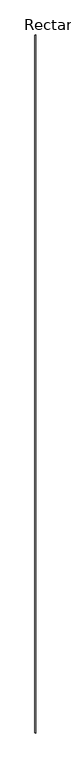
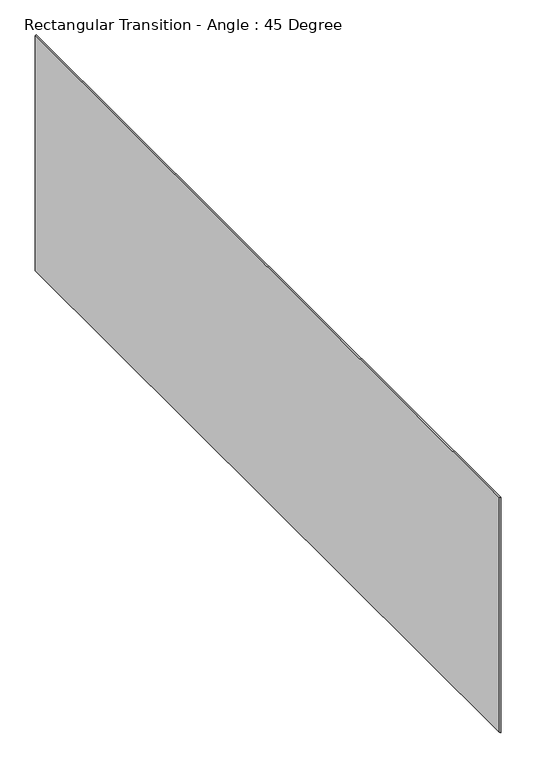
"""IFC4 building model written with IfcOpenShell, lengths in millimetres: duct fitting geometry, Rectangular Transition - Angle : 45 Degree."""

from ifc_helpers import new_model, si_unit, origin, place, context, project, spatial, faceted_brep, source, transform, mapped, element, save


def rectangular_transition_angle_45_degree_585fbb9b(model_context):
    return source(origin(), model_context, "Body", "Brep", [
        faceted_brep([(1.916282, -698.5, 215.9), (1.916282, -698.5, -215.9), (1.916282, 698.5, -215.9), (1.916282, 698.5, 215.9), (0.0, -697.70625, 215.10625), (0.0, 697.70625, 215.10625), (0.0, 697.70625, -215.10625), (0.0, -697.70625, -215.10625)], [[[0, 1, 2, 3]], [[4, 5, 6, 7]], [[4, 7, 1, 0]], [[7, 6, 2, 1]], [[6, 5, 3, 2]], [[5, 4, 0, 3]]]),
    ])


if __name__ == "__main__":
    model = new_model("IFC4")
    model_context = context("Model", 3, world=origin())
    ifc_project = project(units=[si_unit("LENGTHUNIT", "METRE", prefix="MILLI")], contexts=[model_context])
    site = spatial("IfcSite", under=ifc_project)
    building = spatial("IfcBuilding", under=site)
    placement = place(None, origin())
    rectangular_transition_angle_45_degree_shape = rectangular_transition_angle_45_degree_585fbb9b(model_context)
    element("IfcDuctFitting", 1, ObjectType="Rectangular Transition - Angle : 45 Degree", at=placement, inside=building, context=model_context, shape_type="MappedRepresentation", body=[
        mapped(rectangular_transition_angle_45_degree_shape, transform((0.0, 0.0, 0.0), x_axis=(1.0, 0.0, 0.0), y_axis=(0.0, 1.0, 0.0), z_axis=(0.0, 0.0, 1.0))),
    ])
    save(model, "model.ifc")
